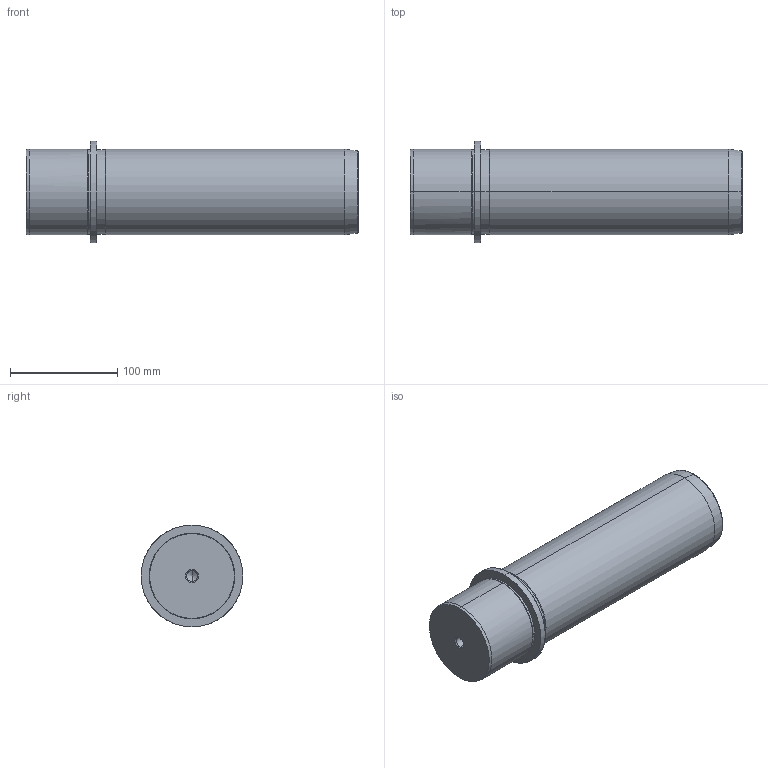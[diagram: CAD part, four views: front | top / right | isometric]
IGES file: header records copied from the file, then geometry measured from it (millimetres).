
Start section: START RECORD GO HERE.
Global section: file name: 719-80x250.igs; native system: DASSAULT SYSTEMES CATIA V5 R20 - www.3ds.com; preprocessor: CATIA Version 5 Release 20 ; author: Utente; organization: NB04-ASUS; date: 20210103.153924; units: millimetre
Bounding box: 310 x 95 x 95 mm (x, y, z)
Surface area: 93541.1 mm2 (no closed solid volume)
Topology: 0 solids, 0 shells, 36 faces, 220 edges, 216 vertices
Faces by surface type: revolution 32, plane 4
